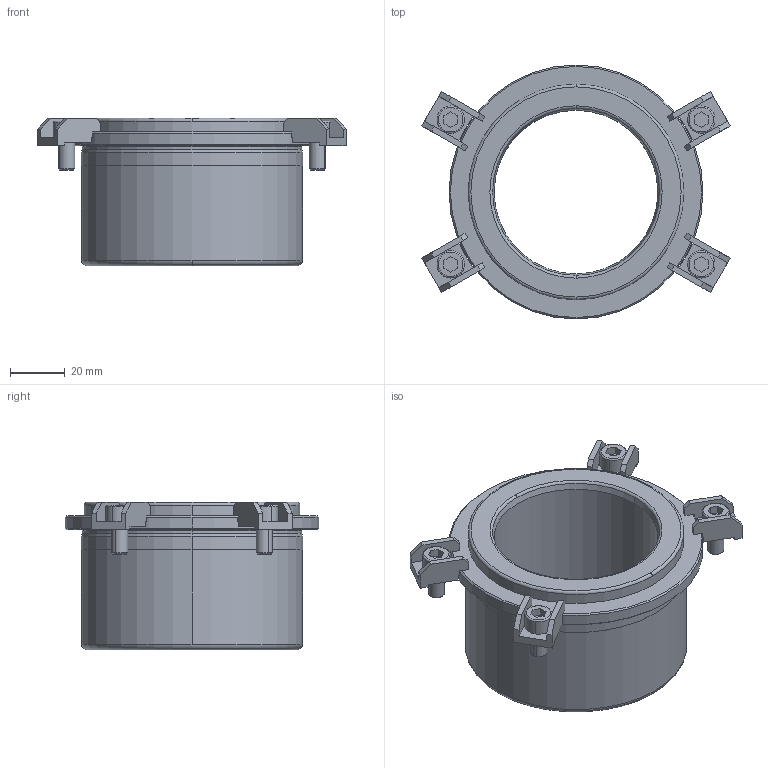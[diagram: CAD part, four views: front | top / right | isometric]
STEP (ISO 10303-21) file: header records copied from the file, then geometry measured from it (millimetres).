
FILE_DESCRIPTION((''),'2;1');
FILE_NAME('B42_048_044.stp','2008-11-04T14:27:06',(''),(''),'Mechanical Desktop 2009','Mechanical Desktop 2009',', , ');
FILE_SCHEMA(('CONFIG_CONTROL_DESIGN'));
Length unit declared in the file: millimetre
Products named in the file (2): Product; blmdl1
Assembly tree (1 placements, depth 2):
  Product
    blmdl1
Bounding box: 112.91 x 93 x 54 mm (x, y, z)
Volume: 137975.4 mm3; surface area: 37921.8 mm2
Topology: 9 solids, 9 shells, 233 faces, 598 edges, 394 vertices
Faces by surface type: plane 137, cylinder 48, cone 20, torus 16, bspline 12
Entity records: 7707 total; most frequent: CARTESIAN_POINT 1755, DIRECTION 1258, ORIENTED_EDGE 1196, EDGE_CURVE 598, AXIS2_PLACEMENT_3D 437, VERTEX_POINT 394, VECTOR 384, LINE 384
